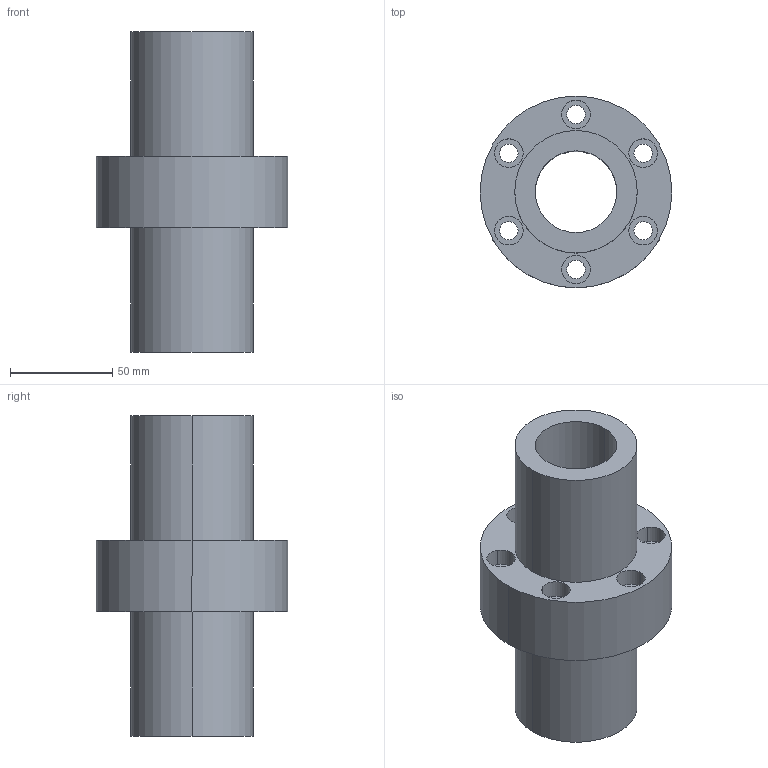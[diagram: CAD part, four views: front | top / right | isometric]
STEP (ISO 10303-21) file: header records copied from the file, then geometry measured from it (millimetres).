
FILE_DESCRIPTION((''),'2;1');
FILE_NAME('40-8T4','2008-04-07T',('yanyu'),(''),'PRO/ENGINEER BY PARAMETRIC TECHNOLOGY CORPORATION, 2005070','PRO/ENGINEER BY PARAMETRIC TECHNOLOGY CORPORATION, 2005070','');
FILE_SCHEMA(('CONFIG_CONTROL_DESIGN'));
Length unit declared in the file: millimetre
Products named in the file (1): 40-8T4
Bounding box: 94 x 94 x 157 mm (x, y, z)
Volume: 372581.1 mm3; surface area: 70403.1 mm2
Topology: 1 solids, 1 shells, 42 faces, 104 edges, 72 vertices
Faces by surface type: cylinder 32, plane 10
Entity records: 1370 total; most frequent: DIRECTION 260, CARTESIAN_POINT 218, ORIENTED_EDGE 208, AXIS2_PLACEMENT_3D 114, EDGE_CURVE 104, VERTEX_POINT 72, CIRCLE 72, EDGE_LOOP 64
